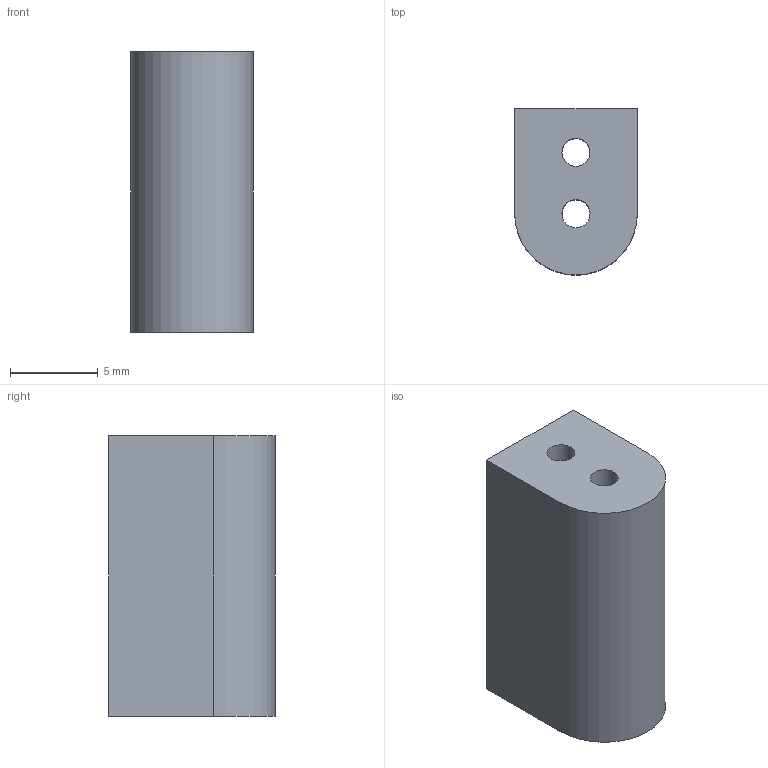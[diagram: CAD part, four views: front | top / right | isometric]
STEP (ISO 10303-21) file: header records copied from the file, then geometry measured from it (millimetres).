
FILE_DESCRIPTION(('FreeCAD Model'),'2;1');
FILE_NAME('Open CASCADE Shape Model','2025-06-20T17:13:38',(''),(''), 'Open CASCADE STEP processor 7.6','FreeCAD','Unknown');
FILE_SCHEMA(('CONFIG_CONTROL_DESIGN','SHAPE_APPEARANCE_LAYER_MIM'));
Length unit declared in the file: millimetre
Products named in the file (1): SingleCCDSpacer
Bounding box: 7 x 9.5 x 16 mm (x, y, z)
Volume: 907.6 mm3; surface area: 768 mm2
Topology: 1 solids, 1 shells, 10 faces, 41 edges, 30 vertices
Faces by surface type: plane 6, cylinder 4
Full cylindrical faces by diameter (mm): 1.6 x3
Entity records: 1101 total; most frequent: CARTESIAN_POINT 694, ORIENTED_EDGE 82, DIRECTION 67, EDGE_CURVE 41, VERTEX_POINT 30, AXIS2_PLACEMENT_3D 27, CIRCLE 16, FACE_BOUND 15
